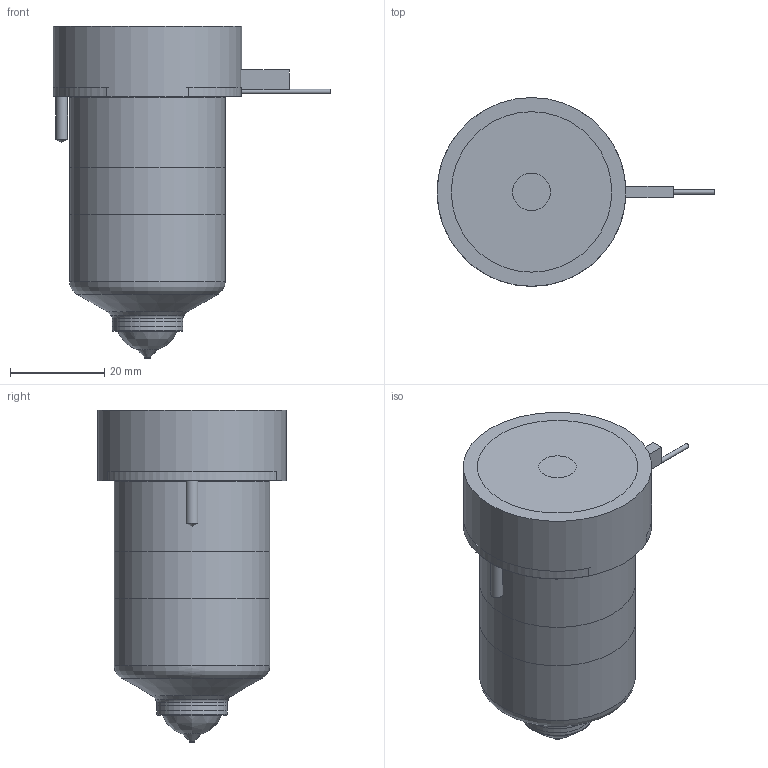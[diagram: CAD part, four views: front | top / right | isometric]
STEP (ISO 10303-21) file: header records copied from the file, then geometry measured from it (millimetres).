
FILE_DESCRIPTION(/* description */ (''),/* implementation_level */ '2;1');
FILE_NAME(/* name */ 'BXTT-BXIT19055_200C_b',/* time_stamp */ '2007-01-18T09:59:23+13:00',/* author */ (''),/* organization */ (''),/* preprocessor_version */ 'ST-DEVELOPER v9',/* originating_system */ 'UGS - NX 4.0',/* authorisation */ '');
FILE_SCHEMA (('CONFIG_CONTROL_DESIGN'));
Length unit declared in the file: millimetre
Products named in the file (1): BXTT-BXIT19055_200C_b
Bounding box: 58.85 x 40 x 70.35 mm (x, y, z)
Volume: 110724.7 mm3; surface area: 21427.8 mm2
Topology: 6 solids, 6 shells, 79 faces, 158 edges, 101 vertices
Faces by surface type: plane 35, cylinder 23, cone 11, torus 8, bspline 2
Full cylindrical faces by diameter (mm): 1 x3, 1.2 x1, 2.5 x2, 8 x1, 14.61 x1, 15.01 x2, 18.3 x1, 28.6 x1, 33 x2, 40 x1
Entity records: 1983 total; most frequent: CARTESIAN_POINT 418, DIRECTION 328, ORIENTED_EDGE 230, AXIS2_PLACEMENT_3D 145, EDGE_LOOP 122, EDGE_CURVE 115, VERTEX_POINT 92, ADVANCED_FACE 79
